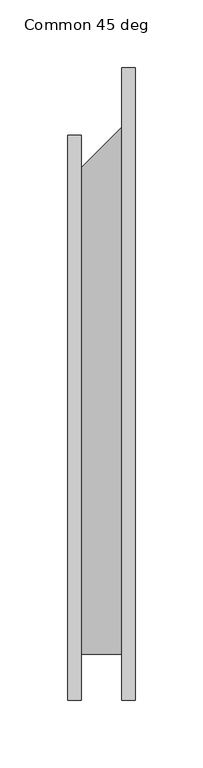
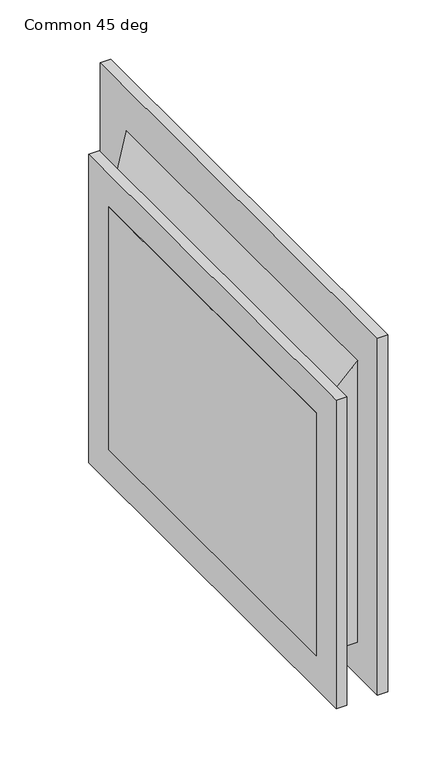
"""IFC4 building model written with IfcOpenShell, lengths in millimetres: duct fitting geometry, 041_角型置換 - フランジ - 角度 : Common 45 deg."""

from ifc_helpers import new_model, si_unit, frame, origin, place, context, project, spatial, polyline, outline, extrude, faceted_brep, source, transform, mapped, element, save


def common_45_deg_f5eb5858(model_context):
    return source(origin(), model_context, "Body", "SolidModel", [
        faceted_brep([(50.0, -175.0, 175.0), (50.0, -175.0, -125.0), (50.0, 225.0, -125.0), (50.0, 225.0, 175.0), (0.0, -175.0, 125.0), (0.0, 175.0, 125.0), (0.0, 175.0, -125.0), (0.0, -175.0, -125.0)], [[[0, 1, 2, 3]], [[4, 5, 6, 7]], [[4, 7, 1, 0]], [[7, 6, 2, 1]], [[6, 5, 3, 2]], [[5, 4, 0, 3]]]),
        extrude(outline(polyline([(50.0, 259.0), (50.0, -209.0), (40.0, -209.0), (40.0, 259.0), (50.0, 259.0)])), frame((0.0, 0.0, -159.0), z_axis=(0.0, 0.0, 1.0), x_axis=(1.0, 0.0, 0.0)), (0.0, 0.0, 1.0), 368.0),
        extrude(outline(polyline([(10.0, 209.0), (10.0, -209.0), (0.0, -209.0), (0.0, 209.0), (10.0, 209.0)])), frame((0.0, 0.0, -159.0), z_axis=(0.0, 0.0, 1.0), x_axis=(1.0, 0.0, 0.0)), (0.0, 0.0, 1.0), 318.0),
    ])


if __name__ == "__main__":
    model = new_model("IFC4")
    model_context = context("Model", 3, world=origin())
    ifc_project = project(units=[si_unit("LENGTHUNIT", "METRE", prefix="MILLI")], contexts=[model_context])
    site = spatial("IfcSite", under=ifc_project)
    building = spatial("IfcBuilding", under=site)
    placement = place(None, origin())
    common_45_deg_shape = common_45_deg_f5eb5858(model_context)
    element("IfcDuctFitting", 1, ObjectType="041_角型置換 - フランジ - 角度 : Common 45 deg", at=placement, inside=building, context=model_context, shape_type="MappedRepresentation", body=[
        mapped(common_45_deg_shape, transform((0.0, 0.0, 0.0), x_axis=(1.0, 0.0, 0.0), y_axis=(0.0, 1.0, 0.0), z_axis=(0.0, 0.0, 1.0))),
    ])
    save(model, "model.ifc")
